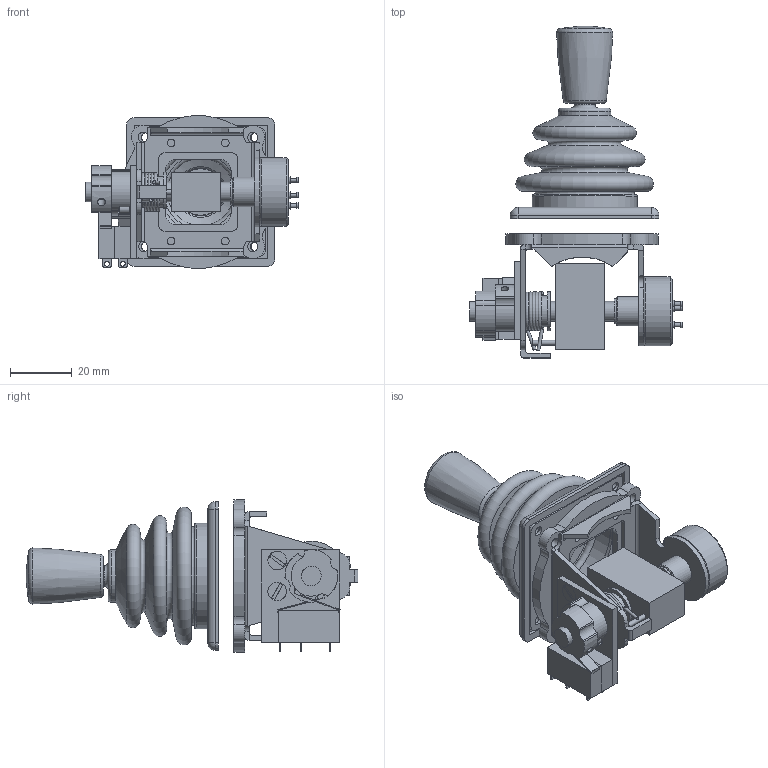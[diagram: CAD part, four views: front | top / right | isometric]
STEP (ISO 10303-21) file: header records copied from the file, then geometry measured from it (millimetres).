
FILE_DESCRIPTION( ( 'Unknown' ), '1' );
FILE_NAME( 'S:/Joysticks/OCS/Engineering/Library/4000/STP/4P19-2S1E-55-113.stp', 'Unknown', ( 'Unknown' ), ( 'Unknown' ), 'PSStep 14.0', 'Unknown', ' ' );
FILE_SCHEMA( ( 'AUTOMOTIVE_DESIGN { 1 0 10303 214 1 1 1 1 }' ) );
Length unit declared in the file: millimetre
Products named in the file (26): switch; Switch; wire con; Asm14; roller lever; roller; Assem1; 410055 pot; 410046; 410017; spring 3d; spring leg; 410094; 410070; 410070-oa0; sccrew; sccrew-oa1; 410072; 410091; 410600; 910062 9000 Series Gaitor; 410022; 410018; 410078
Assembly tree (31 placements, depth 3):
  Assem1
    410055 pot
    410046
    410017
    spring 3d
    spring 3d
    spring 3d
    spring leg  x2
    410094
    410070
    410070-oa0
    sccrew
    sccrew-oa1
    410072  x2
    410091
    410600
    910062 9000 Series Gaitor
    410022
    410018
    410078
    switch  x2
      Switch
      wire con
    Asm14  x2
      roller lever
      roller
Bounding box: 68.7 x 107.24 x 49.25 mm (x, y, z)
Volume: 38070.4 mm3; surface area: 41952.6 mm2
Topology: 33 solids, 33 shells, 490 faces, 1163 edges, 760 vertices
Faces by surface type: plane 233, cylinder 195, torus 30, cone 24, sphere 7, revolution 1
Full cylindrical faces by diameter (mm): 0.261 x1, 0.366 x1, 0.423 x2, 0.5 x4, 1 x4, 1.3 x3, 1.6 x7, 1.8 x3, 2 x2, 2.25 x3, 2.5 x6, 2.6 x4, 3 x18, 3.3 x3, 4.5 x1, 4.8 x2, 5.094 x1, 6.096 x1, 6.342 x1, 6.35 x3, 6.36 x1, 6.4 x3, 6.7 x1, 7.5 x1, 7.72 x1, 8.2 x1, 9.5 x1, 9.54 x1, 9.57 x1, 9.6 x1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
Entity records: 14753 total; most frequent: CARTESIAN_POINT 2080, DIRECTION 2034, ORIENTED_EDGE 1556, AXIS2_PLACEMENT_3D 836, EDGE_CURVE 778, EDGE_LOOP 650, VERTEX_POINT 582, FACE_OUTER_BOUND 509
